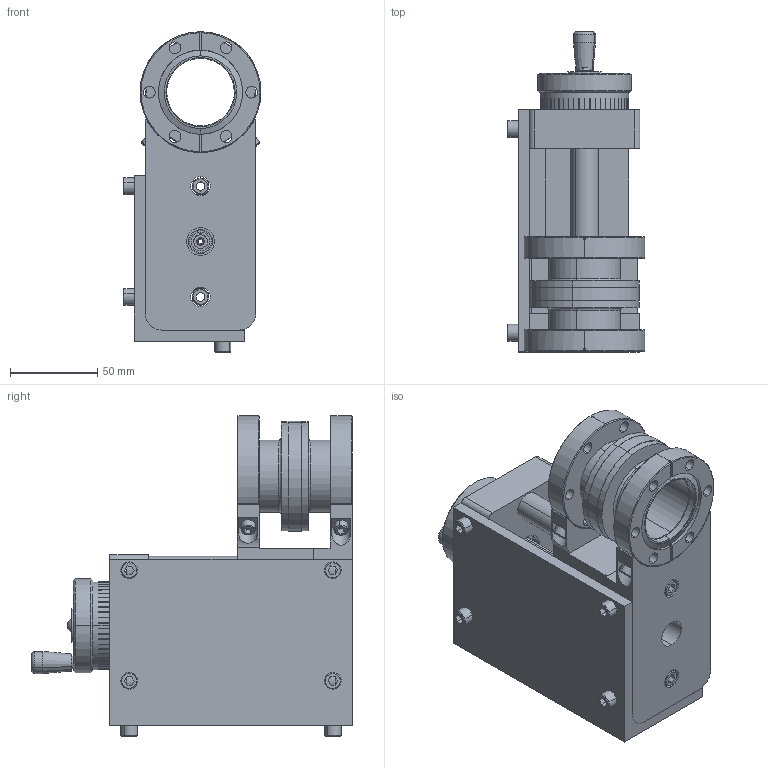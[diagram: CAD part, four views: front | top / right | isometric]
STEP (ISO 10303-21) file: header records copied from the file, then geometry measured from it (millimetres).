
FILE_DESCRIPTION (( 'STEP AP214' ), '1' );
FILE_NAME ('BLT27S-02, BOTH THRU, 10009402.STEP', '2017-11-29T20:35:58', ( 'jvatsvog' ), ( 'Microsoft' ), 'SwSTEP 2.0', 'SolidWorks 2017', '' );
FILE_SCHEMA (( 'AUTOMOTIVE_DESIGN' ));
Length unit declared in the file: inch
Products named in the file (1): BLT27S-02, BOTH THRU, 10009402
Bounding box: 79.12 x 183.86 x 183.9 mm (x, y, z)
Surface area: 163340.1 mm2 (no closed solid volume)
Topology: 0 solids, 41 shells, 414 faces, 1419 edges, 1043 vertices
Faces by surface type: plane 191, cylinder 167, cone 48, torus 8
Entity records: 21778 total; most frequent: CARTESIAN_POINT 3729, DIRECTION 2800, ORIENTED_EDGE 2242, EDGE_CURVE 1419, VERTEX_POINT 1043, AXIS2_PLACEMENT_3D 1010, VECTOR 780, LINE 780
